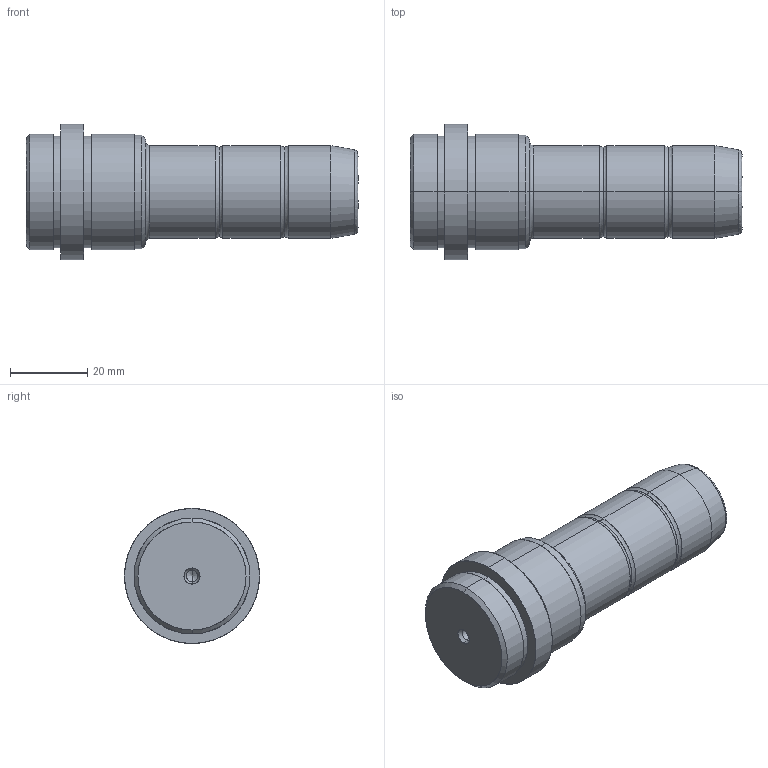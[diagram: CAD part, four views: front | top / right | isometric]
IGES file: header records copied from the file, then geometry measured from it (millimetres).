
Start section: SolidWorks IGES FILE using analytic representation for surfaces
Global section: file name: D:\zzzzz\Delta\D03\24\D03 - 24x22x55.IGS; native system: SolidWorks 2004 by SolidWorks Corporation; preprocessor: Version 5.3; author: Hkn; date: 080327.164753; units: millimetre
Bounding box: 86 x 35 x 35 mm (x, y, z)
Surface area: 9076.6 mm2 (no closed solid volume)
Topology: 0 solids, 0 shells, 56 faces, 1056 edges, 1052 vertices
Faces by surface type: revolution 36, bspline 20
